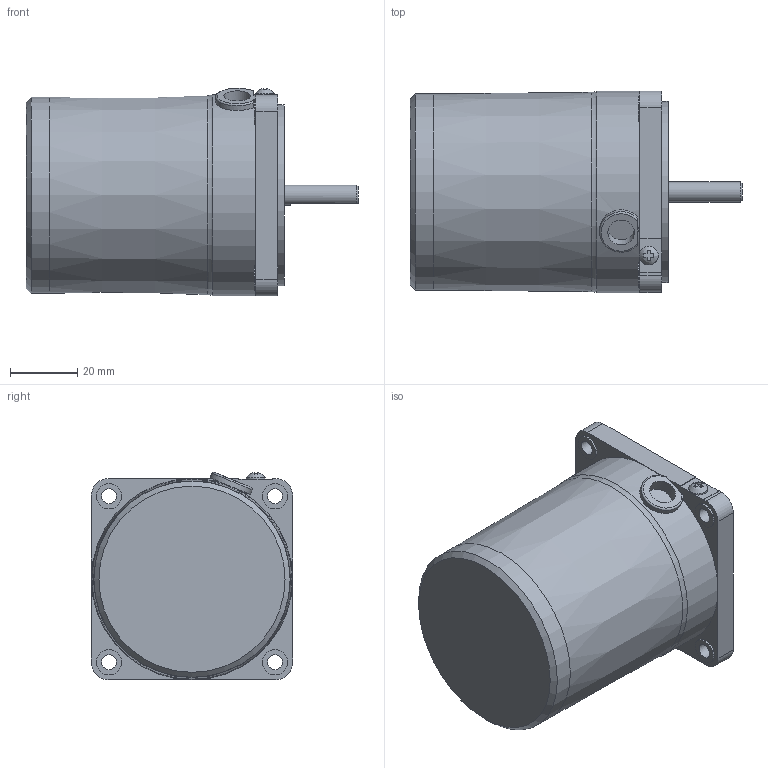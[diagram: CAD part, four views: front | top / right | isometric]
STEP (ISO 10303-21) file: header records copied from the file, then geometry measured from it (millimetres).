
FILE_DESCRIPTION(/* description */ (''),/* implementation_level */ '2;1');
FILE_NAME(/* name */ 'E:\도면작업\2016\0704) 미주향 SG 도면\3D MOTOR\SG6I06D_.stp',/* time_stamp */ '2016-07-22T13:39:55+09:00',/* author */ ('jy-jung'),/* organization */ (''),/* preprocessor_version */ 'ST-DEVELOPER v15.6',/* originating_system */ 'Autodesk Inventor 2015',/* authorisation */ '');
FILE_SCHEMA (('AUTOMOTIVE_DESIGN { 1 0 10303 214 3 1 1 }'));
Length unit declared in the file: millimetre
Products named in the file (1): 부품1
Bounding box: 99 x 60 x 61.91 mm (x, y, z)
Volume: 209962.4 mm3; surface area: 23679.3 mm2
Topology: 1 solids, 2 shells, 98 faces, 252 edges, 164 vertices
Faces by surface type: plane 62, cylinder 30, cone 3, torus 2, bspline 1
Full cylindrical faces by diameter (mm): 4.5 x4, 5.6 x1, 6 x1, 7.5 x4, 8 x1, 10.1 x1, 25 x1, 54 x1, 58.5 x1, 60 x1
Entity records: 3127 total; most frequent: CARTESIAN_POINT 641, DIRECTION 483, ORIENTED_EDGE 460, EDGE_CURVE 230, AXIS2_PLACEMENT_3D 176, VERTEX_POINT 161, EDGE_LOOP 137, LINE 131
